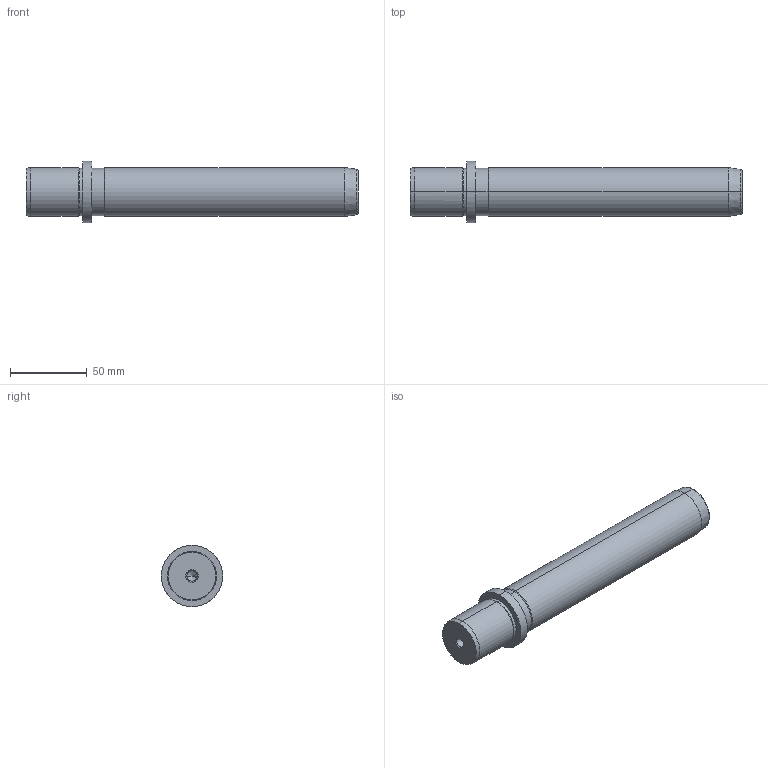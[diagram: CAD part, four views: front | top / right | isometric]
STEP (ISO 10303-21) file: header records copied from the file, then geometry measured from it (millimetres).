
FILE_DESCRIPTION(('CATIA V5 STEP Exchange'),'2;1');
FILE_NAME('C:\Users\Utente\Desktop\IO LAVORO\3D X SITO CF\X SITO\719\719-32x180.stp','2021-01-03T15:50:38+00:00',('none'),('none'),'CATIA Version 5 Release 20 GA (IN-10)','CATIA V5 STEP AP203','none');
FILE_SCHEMA(('CONFIG_CONTROL_DESIGN'));
Length unit declared in the file: millimetre
Products named in the file (1): 719-32x180
Bounding box: 217 x 40 x 40 mm (x, y, z)
Volume: 174352.9 mm3; surface area: 25355.1 mm2
Topology: 1 solids, 1 shells, 36 faces, 100 edges, 66 vertices
Faces by surface type: cone 16, cylinder 14, plane 4, torus 2
Entity records: 1270 total; most frequent: CARTESIAN_POINT 339, ORIENTED_EDGE 192, DIRECTION 158, EDGE_CURVE 96, AXIS2_PLACEMENT_3D 93, VERTEX_POINT 66, CIRCLE 56, EDGE_LOOP 40
